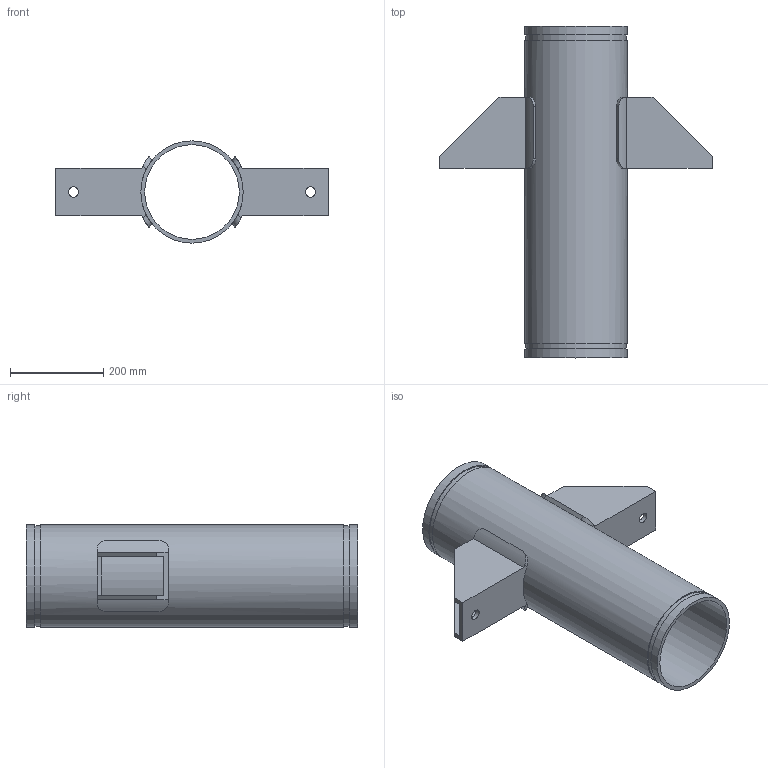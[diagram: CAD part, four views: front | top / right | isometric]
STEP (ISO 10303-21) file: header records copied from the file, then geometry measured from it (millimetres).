
FILE_DESCRIPTION(/* description */ ('VIC Floor-Mounted Carbon Steel Riser Anchor No A10','CAx-IF Rec.Pracs.---Representation and Presentation of Product Manufacturing Information (PMI)---4.0---2014-10-13'),/* implementation_level */ '2;1');
FILE_NAME(/* name */ 'C:\Users\kkamble\AppData\Roaming\Autodesk\ApplicationPlugins\Back Up\Victaulic_SS-OGS_Riser Anchor_No A10 (OGS)\Victaulic_SS-OGS_Riser Anchor_No A10 (OGS)_8 (200).stp',/* time_stamp */ '2020-08-25T18:06:56+06:00',/* author */ ('kkamble'),/* organization */ ('Victaulic'),/* preprocessor_version */ 'ST-DEVELOPER v17.2',/* originating_system */ 'Autodesk Inventor 2019',/* authorisation */ '');
FILE_SCHEMA (('AP242_MANAGED_MODEL_BASED_3D_ENGINEERING_MIM_LF { 1 0 10303 442 1 1 4 }'));
Length unit declared in the file: inch
Products named in the file (1): A10S-08.0
Bounding box: 584.2 x 711.2 x 219.07 mm (x, y, z)
Volume: 5375561.5 mm3; surface area: 1209877.4 mm2
Topology: 1 solids, 1 shells, 56 faces, 155 edges, 106 vertices
Faces by surface type: plane 34, cylinder 22
Full cylindrical faces by diameter (mm): 22.225 x2, 202.717 x1, 214.401 x2, 219.075 x3
Entity records: 2281 total; most frequent: CARTESIAN_POINT 639, DIRECTION 325, ORIENTED_EDGE 310, EDGE_CURVE 155, AXIS2_PLACEMENT_3D 116, VERTEX_POINT 106, LINE 93, VECTOR 93
